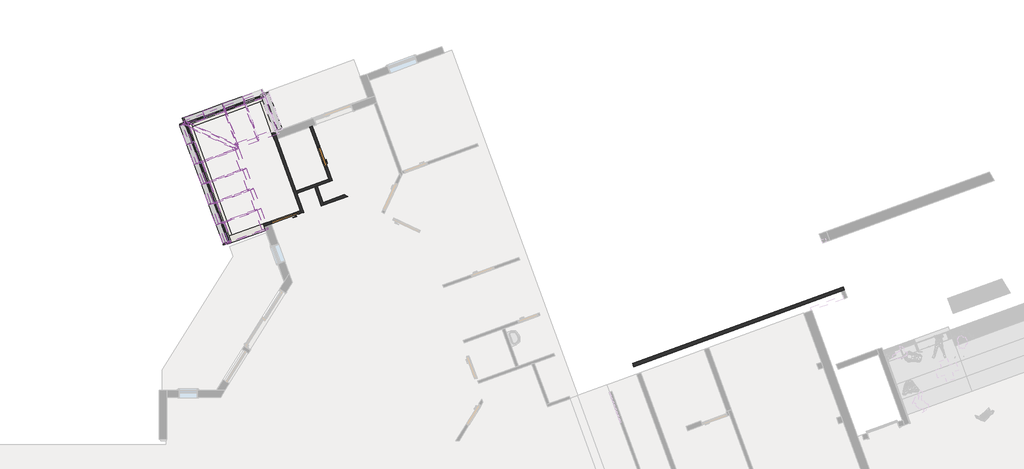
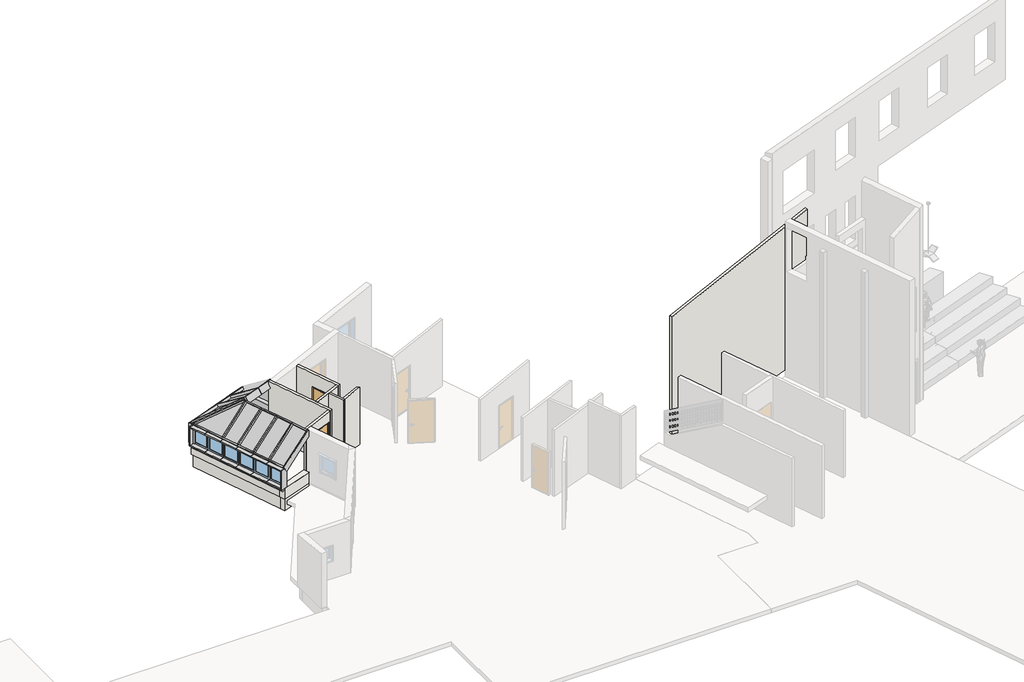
# One storey, part 8 of 13: 49 members, 15 walls, 10 windows, 9 plates, 2 doors.
"""IFC4 building model written with IfcOpenShell, lengths in millimetres."""

from ifc_helpers import new_model, si_unit, origin, place, context, project, spatial, faceted_brep, transform, mapped, element, save
from components import door_11x21_9736111e, door_8x21_60cf5580, rectangular_mullion_50_x_100mm_dbebb1b2, rectangular_mullion_50_x_100mm_ab75951c, rectangular_mullion_50_x_100mm_69f66120, rectangular_mullion_50_x_100mm_762bf241, rectangular_mullion_50_x_100mm_bf926df8, rectangular_mullion_50_x_100mm_1081bc8c, rectangular_mullion_50_x_100mm_a2001a8d, rectangular_mullion_50_x_100mm_a3d3c9c7, rectangular_mullion_50_x_100mm_c4b412ce, rectangular_mullion_50_x_100mm_a6b3a201, rectangular_mullion_50_x_100mm_112b2ebf, rectangular_mullion_50_x_100mm_b93bf2d0, rectangular_mullion_50_x_100mm_ce1730a3, rectangular_mullion_50_x_100mm_c8e4288f, rectangular_mullion_50_x_150mm_15c94c80, rectangular_mullion_50_x_150mm_be18659e, rectangular_mullion_50_x_150mm_57be7c81, system_panel_glazed_14bef62c, system_panel_glazed_947a4620, system_panel_glazed_629b5aa8, system_panel_glazed_9c400084, system_panel_glazed_17fe7d0a, system_panel_glazed_0cbcd161, curtain_wall_awning_curtain_wall_awning_e423f1c4, curtain_wall_awning_curtain_wall_awning_735e1d72, curtain_wall_awning_curtain_wall_awning_1c09ced8, curtain_wall_awning_curtain_wall_awning_3608cf77

model = new_model("IFC4")

# Units and contexts
model_context = context("Model", 3, world=origin())
ifc_project = project(units=[si_unit("LENGTHUNIT", "METRE", prefix="MILLI")], contexts=[model_context])

# Site, building, storey
site = spatial("IfcSite", under=ifc_project)
building = spatial("IfcBuilding", under=site)
storey = spatial("IfcBuildingStorey", under=building, Name="1.0 første etg hovedbygg", Elevation=2500.0)

# Doors
placement = place(None, origin())
door_11x21_shape = door_11x21_9736111e(model_context)
element("IfcDoor", 1, ObjectType="Innerdør Slett (Diplomat) : 11x21", at=placement, inside=storey, context=model_context, shape_type="MappedRepresentation", body=[
    mapped(door_11x21_shape, transform((12205.3927712, 17027.9115251, 2500.0), x_axis=(0.9396926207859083, 0.3420201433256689, 0.0), y_axis=(-0.3420201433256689, 0.9396926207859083, 0.0), z_axis=(0.0, 0.0, 1.0))),
])
door_8x21_shape = door_8x21_60cf5580(model_context)
element("IfcDoor", 2, ObjectType="Innerdør Slett (Diplomat) : 8x21", at=placement, inside=storey, context=model_context, shape_type="MappedRepresentation", body=[
    mapped(door_8x21_shape, transform((13635.9954862, 19361.307074, 2500.0), x_axis=(0.34202014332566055, -0.9396926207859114, 0.0), y_axis=(0.9396926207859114, 0.34202014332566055, 0.0), z_axis=(0.0, 0.0, 1.0))),
])

# Members
rectangular_mullion_50_x_100mm_shape = rectangular_mullion_50_x_100mm_dbebb1b2(model_context)
element("IfcMember", 3, ObjectType="Rectangular Mullion : 50 x 100mm", at=placement, inside=storey, context=model_context, shape_type="MappedRepresentation", body=[
    mapped(rectangular_mullion_50_x_100mm_shape, transform((8512.3218707, 20585.3449786, 3000.0), x_axis=(-0.9396926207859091, -0.3420201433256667, 0.0), y_axis=(-0.3420201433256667, 0.9396926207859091, 0.0), z_axis=(0.0, 0.0, -1.0))),
])
element("IfcMember", 4, ObjectType="Rectangular Mullion : 50 x 100mm", at=placement, inside=storey, context=model_context, shape_type="MappedRepresentation", body=[
    mapped(rectangular_mullion_50_x_100mm_shape, transform((10146.1473205, 16096.4464479, 3000.0), x_axis=(0.34202014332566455, -0.9396926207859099, 0.0), y_axis=(-0.9396926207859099, -0.34202014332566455, 0.0), z_axis=(0.0, 0.0, -1.0))),
])
element("IfcMember", 5, ObjectType="Rectangular Mullion : 50 x 100mm", at=placement, inside=storey, context=model_context, shape_type="MappedRepresentation", body=[
    mapped(rectangular_mullion_50_x_100mm_shape, transform((8512.3218707, 20585.3449786, 3938.0), x_axis=(-0.34202014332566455, 0.9396926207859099, 0.0), y_axis=(-0.9396926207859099, -0.34202014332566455, 0.0), z_axis=(0.0, 0.0, 1.0))),
])
rectangular_mullion_50_x_100mm_2_shape = rectangular_mullion_50_x_100mm_ab75951c(model_context)
element("IfcMember", 6, ObjectType="Rectangular Mullion : 50 x 100mm", at=placement, inside=storey, context=model_context, shape_type="MappedRepresentation", body=[
    mapped(rectangular_mullion_50_x_100mm_2_shape, transform((11492.1185252, 21669.9022651, 3000.0), x_axis=(-0.3420201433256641, 0.9396926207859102, 0.0), y_axis=(0.9396926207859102, 0.3420201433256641, 0.0), z_axis=(0.0, 0.0, -1.0))),
])
rectangular_mullion_50_x_100mm_3_shape = rectangular_mullion_50_x_100mm_69f66120(model_context)
element("IfcMember", 7, ObjectType="Rectangular Mullion : 50 x 100mm", at=placement, inside=storey, context=model_context, shape_type="MappedRepresentation", body=[
    mapped(rectangular_mullion_50_x_100mm_3_shape, transform((11241.4103944, 20040.8468659, 4949.8447807), x_axis=(-0.9396926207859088, -0.3420201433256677, 0.0), y_axis=(0.1961746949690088, -0.5389855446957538, -0.8191520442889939), z_axis=(0.28016649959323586, -0.7697511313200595, 0.573576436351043))),
])
element("IfcMember", 8, ObjectType="Rectangular Mullion : 50 x 100mm", at=placement, inside=storey, context=model_context, shape_type="MappedRepresentation", body=[
    mapped(rectangular_mullion_50_x_100mm_3_shape, transform((10496.4612308, 19769.7075443, 4949.8447807), x_axis=(-0.9396926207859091, -0.34202014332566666, 0.0), y_axis=(0.19617469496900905, -0.5389855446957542, -0.8191520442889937), z_axis=(0.2801664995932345, -0.7697511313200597, 0.5735764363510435))),
])
element("IfcMember", 9, ObjectType="Rectangular Mullion : 50 x 100mm", at=placement, inside=storey, context=model_context, shape_type="MappedRepresentation", body=[
    mapped(rectangular_mullion_50_x_100mm_3_shape, transform((11231.7403967, 17338.8304079, 4949.830802), x_axis=(0.3420201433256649, -0.9396926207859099, 0.0), y_axis=(0.5389855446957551, 0.19617469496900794, -0.8191520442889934), z_axis=(0.7697511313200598, 0.280166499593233, 0.5735764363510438))),
])
element("IfcMember", 10, ObjectType="Rectangular Mullion : 50 x 100mm", at=placement, inside=storey, context=model_context, shape_type="MappedRepresentation", body=[
    mapped(rectangular_mullion_50_x_100mm_3_shape, transform((10959.4361551, 18086.980163, 4949.830802), x_axis=(0.3420201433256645, -0.93969262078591, 0.0), y_axis=(0.5389855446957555, 0.19617469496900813, -0.819152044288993), z_axis=(0.7697511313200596, 0.28016649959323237, 0.5735764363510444))),
])
element("IfcMember", 11, ObjectType="Rectangular Mullion : 50 x 100mm", at=placement, inside=storey, context=model_context, shape_type="MappedRepresentation", body=[
    mapped(rectangular_mullion_50_x_100mm_3_shape, transform((10687.1319134, 18835.1299182, 4949.830802), x_axis=(0.34202014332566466, -0.9396926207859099, 0.0), y_axis=(0.5389855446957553, 0.19617469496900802, -0.8191520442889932), z_axis=(0.7697511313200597, 0.28016649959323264, 0.573576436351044))),
])
element("IfcMember", 12, ObjectType="Rectangular Mullion : 50 x 100mm", at=placement, inside=storey, context=model_context, shape_type="MappedRepresentation", body=[
    mapped(rectangular_mullion_50_x_100mm_3_shape, transform((10414.8276718, 19583.2796733, 4949.830802), x_axis=(0.3420201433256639, -0.9396926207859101, 0.0), y_axis=(0.5389855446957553, 0.19617469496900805, -0.8191520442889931), z_axis=(0.76975113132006, 0.28016649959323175, 0.5735764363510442))),
])
rectangular_mullion_50_x_100mm_4_shape = rectangular_mullion_50_x_100mm_762bf241(model_context)
element("IfcMember", 13, ObjectType="Rectangular Mullion : 50 x 100mm", at=placement, inside=storey, context=model_context, shape_type="MappedRepresentation", body=[
    mapped(rectangular_mullion_50_x_100mm_4_shape, transform((10747.1693616, 21398.7629435, 3938.0), x_axis=(-0.28016649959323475, 0.7697511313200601, -0.5735764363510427), y_axis=(0.19617469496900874, -0.5389855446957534, -0.8191520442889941), z_axis=(-0.9396926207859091, -0.34202014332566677, 0.0))),
])
rectangular_mullion_50_x_100mm_5_shape = rectangular_mullion_50_x_100mm_bf926df8(model_context)
element("IfcMember", 14, ObjectType="Rectangular Mullion : 50 x 100mm", at=placement, inside=storey, context=model_context, shape_type="MappedRepresentation", body=[
    mapped(rectangular_mullion_50_x_100mm_5_shape, transform((10137.5968169, 16119.9387634, 3938.0), x_axis=(-0.7697511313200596, -0.2801664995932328, -0.5735764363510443), y_axis=(0.5389855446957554, 0.1961746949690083, -0.8191520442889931), z_axis=(0.3420201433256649, -0.9396926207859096, 0.0))),
])
element("IfcMember", 15, ObjectType="Rectangular Mullion : 50 x 100mm", at=placement, inside=storey, context=model_context, shape_type="MappedRepresentation", body=[
    mapped(rectangular_mullion_50_x_100mm_5_shape, transform((11270.2279533, 17352.8387329, 4978.5096238), x_axis=(0.7697511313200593, 0.28016649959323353, 0.5735764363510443), y_axis=(0.5389855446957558, 0.19617469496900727, -0.8191520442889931), z_axis=(-0.3420201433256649, 0.9396926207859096, 0.0))),
])
element("IfcMember", 16, ObjectType="Rectangular Mullion : 50 x 100mm", at=placement, inside=storey, context=model_context, shape_type="MappedRepresentation", body=[
    mapped(rectangular_mullion_50_x_100mm_4_shape, transform((11976.8755675, 20264.9481273, 4978.5236025), x_axis=(0.2801664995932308, -0.7697511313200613, 0.5735764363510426), y_axis=(0.19617469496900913, -0.5389855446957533, -0.8191520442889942), z_axis=(0.9396926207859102, 0.34202014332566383, 0.0))),
])
rectangular_mullion_50_x_100mm_6_shape = rectangular_mullion_50_x_100mm_1081bc8c(model_context)
element("IfcMember", 17, ObjectType="Rectangular Mullion : 50 x 100mm", at=placement, inside=storey, context=model_context, shape_type="MappedRepresentation", body=[
    mapped(rectangular_mullion_50_x_100mm_6_shape, transform((9601.5388372, 17592.7459581, 3938.0), x_axis=(-0.7697511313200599, -0.28016649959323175, -0.5735764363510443), y_axis=(0.5389855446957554, 0.19617469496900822, -0.819152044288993), z_axis=(0.34202014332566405, -0.9396926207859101, 0.0))),
])
element("IfcMember", 18, ObjectType="Rectangular Mullion : 50 x 100mm", at=placement, inside=storey, context=model_context, shape_type="MappedRepresentation", body=[
    mapped(rectangular_mullion_50_x_100mm_6_shape, transform((9329.2345956, 18340.8957133, 3938.0), x_axis=(-0.7697511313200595, -0.28016649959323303, -0.5735764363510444), y_axis=(0.5389855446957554, 0.1961746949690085, -0.8191520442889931), z_axis=(0.3420201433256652, -0.9396926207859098, 0.0))),
])
element("IfcMember", 19, ObjectType="Rectangular Mullion : 50 x 100mm", at=placement, inside=storey, context=model_context, shape_type="MappedRepresentation", body=[
    mapped(rectangular_mullion_50_x_100mm_6_shape, transform((9873.8430788, 16844.596203, 3938.0), x_axis=(-0.7697511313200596, -0.28016649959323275, -0.5735764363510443), y_axis=(0.5389855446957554, 0.19617469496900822, -0.8191520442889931), z_axis=(0.3420201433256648, -0.9396926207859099, 0.0))),
])
rectangular_mullion_50_x_100mm_7_shape = rectangular_mullion_50_x_100mm_a2001a8d(model_context)
element("IfcMember", 20, ObjectType="Rectangular Mullion : 50 x 100mm", at=placement, inside=storey, context=model_context, shape_type="MappedRepresentation", body=[
    mapped(rectangular_mullion_50_x_100mm_7_shape, transform((9056.9303539, 19089.0454684, 3938.0), x_axis=(-0.7697511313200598, -0.28016649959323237, -0.5735764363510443), y_axis=(0.5389855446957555, 0.19617469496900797, -0.8191520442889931), z_axis=(0.3420201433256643, -0.9396926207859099, 0.0))),
])
rectangular_mullion_50_x_100mm_8_shape = rectangular_mullion_50_x_100mm_a3d3c9c7(model_context)
element("IfcMember", 21, ObjectType="Rectangular Mullion : 50 x 100mm", at=placement, inside=storey, context=model_context, shape_type="MappedRepresentation", body=[
    mapped(rectangular_mullion_50_x_100mm_8_shape, transform((8512.3218707, 20585.3449786, 3938.0), x_axis=(-0.28016649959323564, 0.7697511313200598, -0.5735764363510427), y_axis=(0.19617469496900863, -0.5389855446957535, -0.8191520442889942), z_axis=(-0.9396926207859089, -0.3420201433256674, 0.0))),
])
rectangular_mullion_50_x_100mm_9_shape = rectangular_mullion_50_x_100mm_c4b412ce(model_context)
element("IfcMember", 22, ObjectType="Rectangular Mullion : 50 x 100mm", at=placement, inside=storey, context=model_context, shape_type="MappedRepresentation", body=[
    mapped(rectangular_mullion_50_x_100mm_9_shape, transform((10002.2201979, 21127.6236218, 3938.0), x_axis=(-0.280166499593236, 0.7697511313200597, -0.5735764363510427), y_axis=(0.1961746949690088, -0.5389855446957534, -0.8191520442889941), z_axis=(-0.9396926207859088, -0.34202014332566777, 0.0))),
])
rectangular_mullion_50_x_100mm_10_shape = rectangular_mullion_50_x_100mm_a6b3a201(model_context)
element("IfcMember", 23, ObjectType="Rectangular Mullion : 50 x 100mm", at=placement, inside=storey, context=model_context, shape_type="MappedRepresentation", body=[
    mapped(rectangular_mullion_50_x_100mm_10_shape, transform((8512.3218707, 20585.3449786, 3938.0), x_axis=(0.22319836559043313, 0.9044741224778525, 0.36346808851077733), y_axis=(0.5389855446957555, 0.196174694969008, -0.8191520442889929), z_axis=(-0.812205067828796, 0.3787374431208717, -0.4437126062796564))),
])
rectangular_mullion_50_x_100mm_11_shape = rectangular_mullion_50_x_100mm_112b2ebf(model_context)
element("IfcMember", 24, ObjectType="Rectangular Mullion : 50 x 100mm", at=placement, inside=storey, context=model_context, shape_type="MappedRepresentation", body=[
    mapped(rectangular_mullion_50_x_100mm_11_shape, transform((11551.0826985, 16581.1966622, 4978.5096238), x_axis=(0.3420201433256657, -0.9396926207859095, 0.0), y_axis=(0.5389855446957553, 0.19617469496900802, -0.819152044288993), z_axis=(0.7697511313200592, 0.280166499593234, 0.5735764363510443))),
])
rectangular_mullion_50_x_100mm_12_shape = rectangular_mullion_50_x_100mm_b93bf2d0(model_context)
element("IfcMember", 25, ObjectType="Rectangular Mullion : 50 x 100mm", at=placement, inside=storey, context=model_context, shape_type="MappedRepresentation", body=[
    mapped(rectangular_mullion_50_x_100mm_12_shape, transform((10416.9561029, 19697.1838744, 4978.5096238), x_axis=(0.7697511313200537, 0.28016649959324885, 0.5735764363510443), y_axis=(0.5389855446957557, 0.19617469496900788, -0.8191520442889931), z_axis=(-0.3420201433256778, 0.9396926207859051, 0.0))),
])
element("IfcMember", 26, ObjectType="Rectangular Mullion : 50 x 100mm", at=placement, inside=storey, context=model_context, shape_type="MappedRepresentation", body=[
    mapped(rectangular_mullion_50_x_100mm_6_shape, transform((10997.9237116, 18100.988488, 4978.5096238), x_axis=(0.7697511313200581, 0.28016649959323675, 0.5735764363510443), y_axis=(0.538985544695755, 0.19617469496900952, -0.8191520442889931), z_axis=(-0.3420201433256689, 0.9396926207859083, 0.0))),
])
element("IfcMember", 27, ObjectType="Rectangular Mullion : 50 x 100mm", at=placement, inside=storey, context=model_context, shape_type="MappedRepresentation", body=[
    mapped(rectangular_mullion_50_x_100mm_6_shape, transform((10725.61947, 18849.1382431, 4978.5096238), x_axis=(0.7697511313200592, 0.2801664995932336, 0.5735764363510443), y_axis=(0.5389855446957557, 0.19617469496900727, -0.8191520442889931), z_axis=(-0.342020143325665, 0.9396926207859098, 0.0))),
])
element("IfcMember", 28, ObjectType="Rectangular Mullion : 50 x 100mm", at=placement, inside=storey, context=model_context, shape_type="MappedRepresentation", body=[
    mapped(rectangular_mullion_50_x_100mm_6_shape, transform((10453.3152284, 19597.2879983, 4978.5096238), x_axis=(0.7697511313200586, 0.28016649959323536, 0.5735764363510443), y_axis=(0.5389855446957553, 0.19617469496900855, -0.8191520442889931), z_axis=(-0.34202014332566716, 0.939692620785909, 0.0))),
])
rectangular_mullion_50_x_100mm_13_shape = rectangular_mullion_50_x_100mm_ce1730a3(model_context)
element("IfcMember", 29, ObjectType="Rectangular Mullion : 50 x 100mm", at=placement, inside=storey, context=model_context, shape_type="MappedRepresentation", body=[
    mapped(rectangular_mullion_50_x_100mm_13_shape, transform((10416.9748626, 19697.1907023, 4978.5236025), x_axis=(-0.5493982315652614, -0.7523646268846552, 0.363468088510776), y_axis=(0.19617469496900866, -0.5389855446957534, -0.8191520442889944), z_axis=(0.8122050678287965, -0.37873744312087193, 0.44371260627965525))),
])
element("IfcMember", 30, ObjectType="Rectangular Mullion : 50 x 100mm", at=placement, inside=storey, context=model_context, shape_type="MappedRepresentation", body=[
    mapped(rectangular_mullion_50_x_100mm_9_shape, transform((11255.4187194, 20002.3593093, 4978.5236025), x_axis=(0.28016649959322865, -0.7697511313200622, 0.5735764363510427), y_axis=(0.19617469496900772, -0.5389855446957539, -0.8191520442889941), z_axis=(0.9396926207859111, 0.34202014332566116, 0.0))),
])
rectangular_mullion_50_x_100mm_14_shape = rectangular_mullion_50_x_100mm_c8e4288f(model_context)
element("IfcMember", 31, ObjectType="Rectangular Mullion : 50 x 100mm", at=placement, inside=storey, context=model_context, shape_type="MappedRepresentation", body=[
    mapped(rectangular_mullion_50_x_100mm_14_shape, transform((10510.4695558, 19731.2199877, 4978.5236025), x_axis=(0.28016649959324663, -0.7697511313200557, 0.5735764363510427), y_axis=(0.19617469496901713, -0.5389855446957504, -0.8191520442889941), z_axis=(0.9396926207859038, 0.34202014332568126, 0.0))),
])
rectangular_mullion_50_x_150mm_shape = rectangular_mullion_50_x_150mm_15c94c80(model_context)
element("IfcMember", 32, ObjectType="Rectangular Mullion : 50 x 150mm", at=placement, inside=storey, context=model_context, shape_type="MappedRepresentation", body=[
    mapped(rectangular_mullion_50_x_150mm_shape, transform((11983.2668759, 20320.483262, 3000.0), x_axis=(0.0, 0.0, -1.0), y_axis=(0.9396926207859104, 0.3420201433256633, 0.0), z_axis=(0.3420201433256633, -0.9396926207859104, 0.0))),
])
rectangular_mullion_50_x_150mm_2_shape = rectangular_mullion_50_x_150mm_be18659e(model_context)
element("IfcMember", 33, ObjectType="Rectangular Mullion : 50 x 150mm", at=placement, inside=storey, context=model_context, shape_type="MappedRepresentation", body=[
    mapped(rectangular_mullion_50_x_150mm_2_shape, transform((8559.3065017, 20602.4459858, 3938.0), x_axis=(0.0, 0.0, 1.0), y_axis=(-0.34202014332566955, 0.9396926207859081, 0.0), z_axis=(-0.9396926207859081, -0.34202014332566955, 0.0))),
])
element("IfcMember", 34, ObjectType="Rectangular Mullion : 50 x 150mm", at=placement, inside=storey, context=model_context, shape_type="MappedRepresentation", body=[
    mapped(rectangular_mullion_50_x_150mm_2_shape, transform((10747.1693616, 21398.7629435, 3938.0), x_axis=(0.0, 0.0, 1.0), y_axis=(-0.34202014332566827, 0.9396926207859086, 0.0), z_axis=(-0.9396926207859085, -0.3420201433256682, 0.0))),
])
element("IfcMember", 35, ObjectType="Rectangular Mullion : 50 x 150mm", at=placement, inside=storey, context=model_context, shape_type="MappedRepresentation", body=[
    mapped(rectangular_mullion_50_x_150mm_2_shape, transform((9257.2710343, 20856.4843002, 3000.0), x_axis=(0.0, 0.0, -1.0), y_axis=(-0.34202014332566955, 0.9396926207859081, 0.0), z_axis=(0.9396926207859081, 0.34202014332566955, 0.0))),
])
rectangular_mullion_50_x_150mm_3_shape = rectangular_mullion_50_x_150mm_57be7c81(model_context)
element("IfcMember", 36, ObjectType="Rectangular Mullion : 50 x 150mm", at=placement, inside=storey, context=model_context, shape_type="MappedRepresentation", body=[
    mapped(rectangular_mullion_50_x_150mm_3_shape, transform((10129.0463133, 16143.4310789, 3938.0), x_axis=(0.0, 0.0, 1.0), y_axis=(-0.9396926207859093, -0.34202014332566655, 0.0), z_axis=(0.34202014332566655, -0.9396926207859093, 0.0))),
])
element("IfcMember", 37, ObjectType="Rectangular Mullion : 50 x 150mm", at=placement, inside=storey, context=model_context, shape_type="MappedRepresentation", body=[
    mapped(rectangular_mullion_50_x_150mm_3_shape, transform((8529.4228778, 20538.3603476, 3000.0), x_axis=(0.0, 0.0, -1.0), y_axis=(-0.9396926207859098, -0.342020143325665, 0.0), z_axis=(-0.342020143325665, 0.9396926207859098, 0.0))),
])
element("IfcMember", 38, ObjectType="Rectangular Mullion : 50 x 150mm", at=placement, inside=storey, context=model_context, shape_type="MappedRepresentation", body=[
    mapped(rectangular_mullion_50_x_150mm_3_shape, transform((9873.8430788, 16844.596203, 3000.0), x_axis=(0.0, 0.0, -1.0), y_axis=(-0.9396926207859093, -0.34202014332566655, 0.0), z_axis=(-0.34202014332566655, 0.9396926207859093, 0.0))),
])
element("IfcMember", 39, ObjectType="Rectangular Mullion : 50 x 150mm", at=placement, inside=storey, context=model_context, shape_type="MappedRepresentation", body=[
    mapped(rectangular_mullion_50_x_150mm_3_shape, transform((8784.6261123, 19837.1952235, 3938.0), x_axis=(0.0, 0.0, 1.0), y_axis=(-0.9396926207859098, -0.342020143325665, 0.0), z_axis=(0.342020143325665, -0.9396926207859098, 0.0))),
])
element("IfcMember", 40, ObjectType="Rectangular Mullion : 50 x 150mm", at=placement, inside=storey, context=model_context, shape_type="MappedRepresentation", body=[
    mapped(rectangular_mullion_50_x_100mm_6_shape, transform((9873.8430788, 16844.596203, 3938.0), x_axis=(0.0, 0.0, 1.0), y_axis=(-0.9396926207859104, -0.3420201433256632, 0.0), z_axis=(0.3420201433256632, -0.9396926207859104, 0.0))),
])
element("IfcMember", 41, ObjectType="Rectangular Mullion : 50 x 150mm", at=placement, inside=storey, context=model_context, shape_type="MappedRepresentation", body=[
    mapped(rectangular_mullion_50_x_100mm_6_shape, transform((9601.5388372, 17592.7459581, 3938.0), x_axis=(0.0, 0.0, 1.0), y_axis=(-0.9396926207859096, -0.34202014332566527, 0.0), z_axis=(0.34202014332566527, -0.9396926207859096, 0.0))),
])
element("IfcMember", 42, ObjectType="Rectangular Mullion : 50 x 150mm", at=placement, inside=storey, context=model_context, shape_type="MappedRepresentation", body=[
    mapped(rectangular_mullion_50_x_100mm_6_shape, transform((9329.2345956, 18340.8957133, 3938.0), x_axis=(0.0, 0.0, 1.0), y_axis=(-0.93969262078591, -0.3420201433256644, 0.0), z_axis=(0.3420201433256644, -0.93969262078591, 0.0))),
])
element("IfcMember", 43, ObjectType="Rectangular Mullion : 50 x 150mm", at=placement, inside=storey, context=model_context, shape_type="MappedRepresentation", body=[
    mapped(rectangular_mullion_50_x_100mm_6_shape, transform((9056.9303539, 19089.0454684, 3938.0), x_axis=(0.0, 0.0, 1.0), y_axis=(-0.9396926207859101, -0.3420201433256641, 0.0), z_axis=(0.3420201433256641, -0.9396926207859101, 0.0))),
])
element("IfcMember", 44, ObjectType="Rectangular Mullion : 50 x 150mm", at=placement, inside=storey, context=model_context, shape_type="MappedRepresentation", body=[
    mapped(rectangular_mullion_50_x_100mm_6_shape, transform((9601.5388372, 17592.7459581, 3000.0), x_axis=(0.0, 0.0, -1.0), y_axis=(-0.9396926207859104, -0.3420201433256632, 0.0), z_axis=(-0.3420201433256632, 0.9396926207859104, 0.0))),
])
element("IfcMember", 45, ObjectType="Rectangular Mullion : 50 x 150mm", at=placement, inside=storey, context=model_context, shape_type="MappedRepresentation", body=[
    mapped(rectangular_mullion_50_x_100mm_6_shape, transform((9329.2345956, 18340.8957133, 3000.0), x_axis=(0.0, 0.0, -1.0), y_axis=(-0.9396926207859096, -0.34202014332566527, 0.0), z_axis=(-0.34202014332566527, 0.9396926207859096, 0.0))),
])
element("IfcMember", 46, ObjectType="Rectangular Mullion : 50 x 150mm", at=placement, inside=storey, context=model_context, shape_type="MappedRepresentation", body=[
    mapped(rectangular_mullion_50_x_100mm_6_shape, transform((9056.9303539, 19089.0454684, 3000.0), x_axis=(0.0, 0.0, -1.0), y_axis=(-0.93969262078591, -0.3420201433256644, 0.0), z_axis=(-0.3420201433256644, 0.93969262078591, 0.0))),
])
element("IfcMember", 47, ObjectType="Rectangular Mullion : 50 x 150mm", at=placement, inside=storey, context=model_context, shape_type="MappedRepresentation", body=[
    mapped(rectangular_mullion_50_x_100mm_6_shape, transform((8784.6261123, 19837.1952235, 3000.0), x_axis=(0.0, 0.0, -1.0), y_axis=(-0.9396926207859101, -0.3420201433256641, 0.0), z_axis=(-0.3420201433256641, 0.9396926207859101, 0.0))),
])
element("IfcMember", 48, ObjectType="Rectangular Mullion : 50 x 150mm", at=placement, inside=storey, context=model_context, shape_type="MappedRepresentation", body=[
    mapped(rectangular_mullion_50_x_100mm_9_shape, transform((10747.1693616, 21398.7629435, 3000.0), x_axis=(0.0, 0.0, -1.0), y_axis=(-0.34202014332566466, 0.9396926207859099, 0.0), z_axis=(0.9396926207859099, 0.34202014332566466, 0.0))),
])
element("IfcMember", 49, ObjectType="Rectangular Mullion : 50 x 150mm", at=placement, inside=storey, context=model_context, shape_type="MappedRepresentation", body=[
    mapped(rectangular_mullion_50_x_100mm_9_shape, transform((10002.2201979, 21127.6236218, 3000.0), x_axis=(0.0, 0.0, -1.0), y_axis=(-0.34202014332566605, 0.9396926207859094, 0.0), z_axis=(0.9396926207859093, 0.342020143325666, 0.0))),
])
element("IfcMember", 50, ObjectType="Rectangular Mullion : 50 x 150mm", at=placement, inside=storey, context=model_context, shape_type="MappedRepresentation", body=[
    mapped(rectangular_mullion_50_x_100mm_9_shape, transform((10002.2201979, 21127.6236218, 3938.0), x_axis=(0.0, 0.0, 1.0), y_axis=(-0.342020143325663, 0.9396926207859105, 0.0), z_axis=(-0.9396926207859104, -0.34202014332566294, 0.0))),
])
element("IfcMember", 51, ObjectType="Rectangular Mullion : 50 x 150mm", at=placement, inside=storey, context=model_context, shape_type="MappedRepresentation", body=[
    mapped(rectangular_mullion_50_x_100mm_9_shape, transform((9257.2710343, 20856.4843002, 3938.0), x_axis=(0.0, 0.0, 1.0), y_axis=(-0.34202014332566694, 0.9396926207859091, 0.0), z_axis=(-0.939692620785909, -0.3420201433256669, 0.0))),
])

# Plates
system_panel_glazed_shape = system_panel_glazed_14bef62c(model_context)
element("IfcPlate", 52, ObjectType="System Panel : Glazed", at=placement, inside=storey, context=model_context, shape_type="MappedRepresentation", body=[
    mapped(system_panel_glazed_shape, transform((10388.7031047, 21224.7057261, 3966.6788218), x_axis=(-0.9396926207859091, -0.3420201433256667, 0.0), y_axis=(0.1961746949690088, -0.5389855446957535, -0.8191520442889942), z_axis=(0.2801664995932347, -0.7697511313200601, 0.5735764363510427))),
])
system_panel_glazed_2_shape = system_panel_glazed_947a4620(model_context)
element("IfcPlate", 53, ObjectType="System Panel : Glazed", at=placement, inside=storey, context=model_context, shape_type="MappedRepresentation", body=[
    mapped(system_panel_glazed_2_shape, transform((8836.8956065, 19813.3379861, 3966.6788218), x_axis=(0.34202014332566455, -0.9396926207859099, 0.0), y_axis=(0.5389855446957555, 0.1961746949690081, -0.8191520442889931), z_axis=(0.7697511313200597, 0.28016649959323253, 0.5735764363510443))),
])
system_panel_glazed_3_shape = system_panel_glazed_629b5aa8(model_context)
element("IfcPlate", 54, ObjectType="System Panel : Glazed", at=placement, inside=storey, context=model_context, shape_type="MappedRepresentation", body=[
    mapped(system_panel_glazed_3_shape, transform((9309.1449216, 20831.7786813, 3966.6788218), x_axis=(-0.9396926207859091, -0.3420201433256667, 0.0), y_axis=(0.1961746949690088, -0.5389855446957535, -0.8191520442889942), z_axis=(0.2801664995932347, -0.7697511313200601, 0.5735764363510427))),
])
system_panel_glazed_4_shape = system_panel_glazed_9c400084(model_context)
element("IfcPlate", 55, ObjectType="System Panel : Glazed", at=placement, inside=storey, context=model_context, shape_type="MappedRepresentation", body=[
    mapped(system_panel_glazed_4_shape, transform((9231.5700313, 18728.9789158, 3966.6788218), x_axis=(0.34202014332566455, -0.9396926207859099, 0.0), y_axis=(0.5389855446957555, 0.1961746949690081, -0.8191520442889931), z_axis=(0.7697511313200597, 0.28016649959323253, 0.5735764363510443))),
])
element("IfcPlate", 56, ObjectType="System Panel : Glazed", at=placement, inside=storey, context=model_context, shape_type="MappedRepresentation", body=[
    mapped(system_panel_glazed_4_shape, transform((9503.874273, 17980.8291607, 3966.6788218), x_axis=(0.34202014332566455, -0.9396926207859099, 0.0), y_axis=(0.5389855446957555, 0.1961746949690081, -0.8191520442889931), z_axis=(0.7697511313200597, 0.28016649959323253, 0.5735764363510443))),
])
element("IfcPlate", 57, ObjectType="System Panel : Glazed", at=placement, inside=storey, context=model_context, shape_type="MappedRepresentation", body=[
    mapped(system_panel_glazed_4_shape, transform((9776.1785146, 17232.6794056, 3966.6788218), x_axis=(0.34202014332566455, -0.9396926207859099, 0.0), y_axis=(0.5389855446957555, 0.1961746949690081, -0.8191520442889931), z_axis=(0.7697511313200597, 0.28016649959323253, 0.5735764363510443))),
])
element("IfcPlate", 58, ObjectType="System Panel : Glazed", at=placement, inside=storey, context=model_context, shape_type="MappedRepresentation", body=[
    mapped(system_panel_glazed_4_shape, transform((10048.4827562, 16484.5296504, 3966.6788218), x_axis=(0.34202014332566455, -0.9396926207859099, 0.0), y_axis=(0.5389855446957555, 0.1961746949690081, -0.8191520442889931), z_axis=(0.7697511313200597, 0.28016649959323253, 0.5735764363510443))),
])
system_panel_glazed_5_shape = system_panel_glazed_17fe7d0a(model_context)
element("IfcPlate", 59, ObjectType="System Panel : Glazed", at=placement, inside=storey, context=model_context, shape_type="MappedRepresentation", body=[
    mapped(system_panel_glazed_5_shape, transform((11746.2432041, 20971.700448, 3050.0), x_axis=(-0.3420201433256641, 0.9396926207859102, 0.0), y_axis=(-0.9396926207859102, -0.3420201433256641, 0.0), z_axis=(0.0, 0.0, 1.0))),
])
system_panel_glazed_6_shape = system_panel_glazed_0cbcd161(model_context)
element("IfcPlate", 60, ObjectType="System Panel : Glazed", at=placement, inside=storey, context=model_context, shape_type="MappedRepresentation", body=[
    mapped(system_panel_glazed_6_shape, transform((11749.4250886, 20962.9582922, 3925.0), x_axis=(-0.3420201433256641, 0.9396926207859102, 0.0), y_axis=(-0.9396926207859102, -0.3420201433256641, 0.0), z_axis=(0.0, 0.0, 1.0))),
])

# Walls
element("IfcWall", 61, ObjectType="Yttervegg Tre 198 Isolert Liggende Kledning", at=placement, inside=storey, context=model_context, shape_type="Brep", body=[
    faceted_brep([(11584.8288066, 16874.4221731, 2500.0), (10289.9307352, 16403.1178187, 2500.0), (10041.8518833, 16312.8245008, 2500.0), (10041.8518833, 16312.8245008, 2995.0), (10041.8518833, 16312.8245008, 3000.0), (10289.9307352, 16403.1178187, 3000.0), (11584.8288066, 16874.4221731, 3000.0), (11675.1221244, 16626.3433212, 3000.0), (11551.0826985, 16581.1966622, 3000.0), (10132.1452012, 16064.7456489, 3000.0), (10132.1452012, 16064.7456489, 2995.0), (10132.1452012, 16064.7456489, 2500.0), (11551.0826985, 16581.1966622, 2500.0), (11675.1221244, 16626.3433212, 2500.0), (11625.1914809, 16763.5266369, 3000.0), (11590.9894665, 16857.495899, 3000.0), (11656.6530367, 16677.0867227, 2500.0), (11625.1914809, 16763.5266369, 2500.0), (11590.9894665, 16857.495899, 2500.0), (10113.6761134, 16115.4890505, 2500.0)], [[[0, 1, 2, 3, 4, 5, 6]], [[7, 8, 9, 10, 11, 12, 13]], [[6, 5, 4, 9, 8, 7, 14, 15]], [[0, 6, 15, 14, 7, 13, 16, 17, 18]], [[2, 1, 0, 18, 17, 16, 19]], [[16, 13, 12, 11, 19]], [[9, 4, 3, 2, 19, 11, 10]]]),
])
element("IfcWall", 62, ObjectType="Yttervegg Tre 198 Isolert Liggende Kledning", at=placement, inside=storey, context=model_context, shape_type="Brep", body=[
    faceted_brep([(10289.9307352, 16403.1178187, 2500.0), (8819.932934, 20441.903584, 2500.0), (8729.6396162, 20689.9824359, 2500.0), (8729.6396162, 20689.9824359, 3000.0), (8819.932934, 20441.903584, 3000.0), (10289.9307352, 16403.1178187, 3000.0), (10041.8518833, 16312.8245008, 3000.0), (8481.5607643, 20599.6891181, 3000.0), (8481.5607643, 20599.6891181, 2995.0), (8481.5607643, 20599.6891181, 2500.0), (10041.8518833, 16312.8245008, 2500.0), (10041.8518833, 16312.8245008, 2995.0), (10092.5952849, 16331.2935886, 2500.0), (8532.3041658, 20618.1582058, 2500.0)], [[[0, 1, 2, 3, 4, 5]], [[6, 7, 8, 9, 10, 11]], [[5, 4, 3, 7, 6]], [[2, 1, 0, 12, 13]], [[0, 5, 6, 11, 10, 12]], [[10, 9, 13, 12]], [[3, 2, 13, 9, 8, 7]]]),
])
element("IfcWall", 63, ObjectType="Yttervegg Tre 198 Isolert Liggende Kledning", at=placement, inside=storey, context=model_context, shape_type="Brep", body=[
    faceted_brep([(8819.932934, 20441.903584, 2500.0), (11349.6168233, 21362.6332218, 2500.0), (11597.6956751, 21452.9265397, 2500.0), (11597.6956751, 21452.9265397, 3000.0), (11349.6168233, 21362.6332218, 3000.0), (8819.932934, 20441.903584, 3000.0), (8729.6396162, 20689.9824359, 2500.0), (8729.6396162, 20689.9824359, 3000.0), (11507.4023573, 21701.0053915, 3000.0), (11507.4023573, 21701.0053915, 2500.0), (8748.1087039, 20639.2390344, 2500.0), (11525.871445, 21650.26199, 2500.0)], [[[0, 1, 2, 3, 4, 5]], [[6, 7, 8, 9]], [[5, 4, 3, 8, 7]], [[2, 1, 0, 10, 11]], [[0, 5, 7, 6, 10]], [[10, 6, 9, 11]], [[3, 2, 11, 9, 8]]]),
])
element("IfcWall", 64, ObjectType="Yttervegg Tre 198 Isolert Liggende Kledning", at=placement, inside=storey, context=model_context, shape_type="Brep", body=[
    faceted_brep([(11349.6168233, 21362.6332218, 2500.0), (11820.9280056, 20067.7163907, 2500.0), (11820.9280056, 20067.7163907, 3000.0), (11349.6168233, 21362.6332218, 3000.0), (11597.6956751, 21452.9265397, 2500.0), (11597.6956751, 21452.9265397, 3000.0), (12023.8601986, 20282.0491345, 3000.0), (12069.0068575, 20158.0097086, 3000.0), (12069.0068575, 20158.0097086, 2500.0), (12023.8601986, 20282.0491345, 2500.0), (11834.0830464, 20072.504434, 2500.0), (11928.0523085, 20106.7064483, 2500.0), (12018.263456, 20139.5406208, 2500.0), (11928.0523085, 20106.7064483, 3000.0), (11834.0830464, 20072.504434, 3000.0), (11546.9522736, 21434.4574519, 2500.0)], [[[0, 1, 2, 3]], [[4, 5, 6, 7, 8, 9]], [[2, 1, 10, 11, 12, 8, 7, 13, 14]], [[3, 2, 14, 13, 7, 6, 5]], [[1, 0, 15, 12, 11, 10]], [[0, 3, 5, 4, 15]], [[15, 4, 9, 8, 12]]]),
])
element("IfcWall", 65, ObjectType="Innervegg Tre 198", at=placement, inside=storey, context=model_context, shape_type="Brep", body=[
    faceted_brep([(33028.4381259, 14469.881223, 2500.0), (25200.7985948, 11620.8534291, 2500.0), (25200.7985948, 11620.8534291, 8803.0852998), (33028.4381259, 14469.881223, 9551.5952301), (33070.8486237, 14353.359338, 2500.0), (33070.8486237, 14353.359338, 2516.8949299), (33070.8486237, 14353.359338, 7330.0), (33070.8486237, 14353.359338, 9551.5952301), (25243.2090925, 11504.3315441, 8803.0852998), (25243.2090925, 11504.3315441, 2500.0)], [[[0, 1, 2, 3]], [[4, 5, 6, 7, 8, 9]], [[1, 0, 4, 9]], [[2, 1, 9, 8]], [[3, 2, 8, 7]], [[0, 3, 7, 6, 5, 4]]]),
])
element("IfcWall", 66, ObjectType="Generic - 100mm - Filled", at=placement, inside=storey, context=model_context, shape_type="Brep", body=[
    faceted_brep([(13194.7993744, 20427.2932087, 5250.2202831), (13194.7993744, 20427.2932087, 2500.0), (13468.7496069, 19674.621131, 2500.0), (13468.7496069, 19674.621131, 4615.0), (13745.7859229, 18913.4701082, 4615.0), (13745.7859229, 18913.4701082, 2500.0), (13897.9848867, 18495.3068919, 2500.0), (13932.1869011, 18401.3376298, 2500.0), (13932.1869011, 18401.3376298, 5250.2202831), (13897.9848867, 18495.3068919, 5250.2202831), (13288.7686365, 20461.495223, 2500.0), (13288.7686365, 20461.495223, 5258.9691495), (14026.1561631, 18435.5396442, 5258.9691495), (14026.1561631, 18435.5396442, 2500.0), (13839.755185, 18947.6721225, 2500.0), (13839.755185, 18947.6721225, 4615.0), (13562.7188689, 19708.8231453, 4615.0), (13562.7188689, 19708.8231453, 2500.0)], [[[0, 1, 2, 3, 4, 5, 6, 7, 8, 9]], [[10, 11, 12, 13, 14, 15, 16, 17]], [[1, 10, 17, 2]], [[13, 7, 6, 5, 14]], [[1, 0, 11, 10]], [[8, 7, 13, 12]], [[0, 9, 8, 12, 11]], [[16, 3, 2, 17]], [[3, 16, 15, 4]], [[4, 15, 14, 5]]]),
])
element("IfcWall", 67, ObjectType="Generic - 100mm - Filled", at=placement, inside=storey, context=model_context, shape_type="Brep", body=[
    faceted_brep([(13897.9848867, 18495.3068919, 2500.0), (12676.3844797, 18050.6807056, 2500.0), (12676.3844797, 18050.6807056, 5136.4850205), (13897.9848867, 18495.3068919, 5250.2202831), (13932.1869011, 18401.3376298, 2500.0), (13932.1869011, 18401.3376298, 5250.2202831), (13462.3405907, 18230.3275582, 5206.4759513), (13368.3713286, 18196.1255438, 5197.727085), (12710.586494, 17956.7114435, 5136.4850205), (12710.586494, 17956.7114435, 2500.0), (13368.3713286, 18196.1255438, 2500.0), (13462.3405907, 18230.3275582, 2500.0)], [[[0, 1, 2, 3]], [[4, 5, 6, 7, 8, 9, 10, 11]], [[1, 0, 4, 11, 10, 9]], [[0, 3, 5, 4]], [[2, 1, 9, 8]], [[3, 2, 8, 7, 6, 5]]]),
])
element("IfcWall", 68, ObjectType="Generic - 100mm - Filled", at=placement, inside=storey, context=model_context, shape_type="Brep", body=[
    faceted_brep([(11834.0830464, 20072.504434, 2500.0), (12838.9303251, 17311.7092257, 2500.0), (12873.1323395, 17217.7399636, 2500.0), (12873.1323395, 17217.7399636, 5127.7361542), (12838.9303251, 17311.7092257, 5127.7361542), (11788.9363875, 20196.5438599, 5127.7361542), (11788.9363875, 20196.5438599, 3000.0), (11834.0830464, 20072.504434, 3000.0), (11928.0523085, 20106.7064483, 2500.0), (11928.0523085, 20106.7064483, 3000.0), (11882.9056495, 20230.7458743, 3000.0), (11882.9056495, 20230.7458743, 5136.4850205), (11973.1989674, 19982.6670224, 5136.4850205), (12676.3844797, 18050.6807056, 5136.4850205), (12710.586494, 17956.7114435, 5136.4850205), (12967.1016015, 17251.9419779, 5136.4850205), (12967.1016015, 17251.9419779, 2500.0), (12710.586494, 17956.7114435, 2500.0), (12676.3844797, 18050.6807056, 2500.0), (11973.1989674, 19982.6670224, 2500.0)], [[[0, 1, 2, 3, 4, 5, 6, 7]], [[8, 9, 10, 11, 12, 13, 14, 15, 16, 17, 18, 19]], [[2, 1, 0, 8, 19, 18, 17, 16]], [[3, 2, 16, 15]], [[5, 4, 3, 15, 14, 13, 12, 11]], [[0, 7, 9, 8]], [[6, 10, 9, 7]], [[5, 11, 10, 6]]]),
])
element("IfcWall", 69, ObjectType="Generic - 100mm - Filled", at=placement, inside=storey, context=model_context, shape_type="Brep", body=[
    faceted_brep([(12873.1323395, 17217.7399636, 2500.0), (12873.1323395, 17217.7399636, 5127.7361542), (11749.2309068, 16808.6732959, 5023.0970072), (11501.1520549, 16718.379978, 5000.0), (11501.1520549, 16718.379978, 3000.0), (11625.1914809, 16763.5266369, 3000.0), (11625.1914809, 16763.5266369, 2500.0), (11749.2309068, 16808.6732959, 2500.0), (11751.1248211, 16809.3626243, 2500.0), (11751.1248211, 16809.3626243, 4615.0), (12794.1836302, 17189.0049834, 4615.0), (12794.1836302, 17189.0049834, 2500.0), (12838.9303251, 17311.7092257, 5127.7361542), (12838.9303251, 17311.7092257, 2500.0), (12759.9816159, 17282.9742455, 2500.0), (12759.9816159, 17282.9742455, 4615.0), (11716.9228068, 16903.3318864, 4615.0), (11716.9228068, 16903.3318864, 2500.0), (11590.9894665, 16857.495899, 2500.0), (11590.9894665, 16857.495899, 3000.0), (11466.9500406, 16812.3492401, 3000.0), (11466.9500406, 16812.3492401, 5000.0)], [[[0, 1, 2, 3, 4, 5, 6, 7, 8, 9, 10, 11]], [[12, 13, 14, 15, 16, 17, 18, 19, 20, 21]], [[13, 0, 11, 14]], [[6, 18, 17, 8, 7]], [[1, 0, 13, 12]], [[3, 2, 1, 12, 21]], [[18, 6, 5, 19]], [[20, 19, 5, 4]], [[3, 21, 20, 4]], [[16, 9, 8, 17]], [[9, 16, 15, 10]], [[10, 15, 14, 11]]]),
])
element("IfcWall", 70, ObjectType="Generic - 100mm - Filled", at=placement, inside=storey, context=model_context, shape_type="Brep", body=[
    faceted_brep([(13368.3713286, 18196.1255438, 2500.0), (13624.8864361, 17491.3560782, 2500.0), (13624.8864361, 17491.3560782, 5197.727085), (13368.3713286, 18196.1255438, 5197.727085), (13462.3405907, 18230.3275582, 2500.0), (13462.3405907, 18230.3275582, 5206.4759513), (13684.6536838, 17619.5273546, 5206.4759513), (13718.8556982, 17525.5580926, 5206.4759513), (13718.8556982, 17525.5580926, 2500.0), (13684.6536838, 17619.5273546, 2500.0)], [[[0, 1, 2, 3]], [[4, 5, 6, 7, 8, 9]], [[1, 0, 4, 9, 8]], [[0, 3, 5, 4]], [[2, 1, 8, 7]], [[3, 2, 7, 6, 5]]]),
])
element("IfcWall", 71, ObjectType="Generic - 100mm - Filled", at=placement, inside=storey, context=model_context, shape_type="Brep", body=[
    faceted_brep([(13718.8556982, 17525.5580926, 2500.0), (14461.183412, 17795.7432845, 2500.0), (14594.0760168, 17844.112237, 2500.0), (14594.0760168, 17844.112237, 5287.9620185), (14461.183412, 17795.7432845, 5275.589253), (13718.8556982, 17525.5580926, 5206.4759513), (13684.6536838, 17619.5273546, 2500.0), (13684.6536838, 17619.5273546, 5206.4759513), (14465.9047404, 17903.8794847, 5279.2131521), (14465.9047404, 17903.8794847, 2500.0)], [[[0, 1, 2, 3, 4, 5]], [[6, 7, 8, 9]], [[2, 1, 0, 6, 9]], [[0, 5, 7, 6]], [[3, 2, 9, 8]], [[5, 4, 3, 8, 7]]]),
])
element("IfcWall", 72, ObjectType="Yttervegg 200 betong", at=placement, inside=storey, context=model_context, shape_type="Brep", body=[
    faceted_brep([(11514.9529836, 16838.3476757, 1900.0), (10283.9540104, 16390.300691, 1900.0), (10096.0154863, 16321.8966623, 1900.0), (10096.0154863, 16321.8966623, 2500.0), (10283.9540104, 16390.300691, 2500.0), (11514.9529836, 16838.3476757, 2500.0), (11583.3570123, 16650.4091515, 1900.0), (11583.3570123, 16650.4091515, 2500.0), (10164.4195149, 16133.9581382, 2500.0), (10164.4195149, 16133.9581382, 1900.0)], [[[0, 1, 2, 3, 4, 5]], [[6, 7, 8, 9]], [[2, 1, 0, 6, 9]], [[5, 4, 3, 8, 7]], [[0, 5, 7, 6]], [[3, 2, 9, 8]]]),
])
element("IfcWall", 73, ObjectType="Yttervegg 200 betong", at=placement, inside=storey, context=model_context, shape_type="Brep", body=[
    faceted_brep([(10283.9540104, 16390.300691, 1900.0), (8807.1158064, 20447.8803088, 1900.0), (8738.7117777, 20635.818833, 1900.0), (8738.7117777, 20635.818833, 2500.0), (8807.1158064, 20447.8803088, 2500.0), (10283.9540104, 16390.300691, 2500.0), (10096.0154863, 16321.8966623, 1900.0), (10096.0154863, 16321.8966623, 2500.0), (8550.7732536, 20567.4148043, 2500.0), (8550.7732536, 20567.4148043, 1900.0)], [[[0, 1, 2, 3, 4, 5]], [[6, 7, 8, 9]], [[2, 1, 0, 6, 9]], [[5, 4, 3, 8, 7]], [[0, 5, 7, 6]], [[3, 2, 9, 8]]]),
])
element("IfcWall", 74, ObjectType="Yttervegg 200 betong", at=placement, inside=storey, context=model_context, shape_type="Brep", body=[
    faceted_brep([(8807.1158064, 20447.8803088, 1900.0), (11355.593548, 21375.4503495, 1900.0), (11543.5320722, 21443.8543781, 1900.0), (11543.5320722, 21443.8543781, 2500.0), (11355.593548, 21375.4503495, 2500.0), (8807.1158064, 20447.8803088, 2500.0), (8738.7117777, 20635.818833, 1900.0), (8738.7117777, 20635.818833, 2500.0), (11475.1280435, 21631.7929023, 2500.0), (11475.1280435, 21631.7929023, 1900.0)], [[[0, 1, 2, 3, 4, 5]], [[6, 7, 8, 9]], [[2, 1, 0, 6, 9]], [[5, 4, 3, 8, 7]], [[0, 5, 7, 6]], [[3, 2, 9, 8]]]),
])
element("IfcWall", 75, ObjectType="Yttervegg 200 betong", at=placement, inside=storey, context=model_context, shape_type="Brep", body=[
    faceted_brep([(11355.593548, 21375.4503495, 1900.0), (11872.0513893, 19956.4940924, 1900.0), (11872.0513893, 19956.4940924, 2500.0), (11355.593548, 21375.4503495, 2500.0), (11543.5320722, 21443.8543781, 1900.0), (11543.5320722, 21443.8543781, 2500.0), (11991.5858848, 20212.8366453, 2500.0), (12059.9899135, 20024.8981211, 2500.0), (12059.9899135, 20024.8981211, 1900.0), (11991.5858848, 20212.8366453, 1900.0)], [[[0, 1, 2, 3]], [[4, 5, 6, 7, 8, 9]], [[1, 0, 4, 9, 8]], [[3, 2, 7, 6, 5]], [[0, 3, 5, 4]], [[2, 1, 8, 7]]]),
])

# Windows
curtain_wall_awning_curtain_wall_awning_shape = curtain_wall_awning_curtain_wall_awning_e423f1c4(model_context)
element("IfcWindow", 76, ObjectType="Curtain Wall Awning : Curtain Wall Awning", at=placement, inside=storey, context=model_context, shape_type="MappedRepresentation", body=[
    mapped(curtain_wall_awning_curtain_wall_awning_shape, transform((11096.1516279, 21525.7821007, 3050.0), x_axis=(-0.9396926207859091, -0.3420201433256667, 0.0), y_axis=(0.3420201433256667, -0.9396926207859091, 0.0), z_axis=(0.0, 0.0, 1.0))),
])
element("IfcWindow", 77, ObjectType="Curtain Wall Awning : Curtain Wall Awning", at=placement, inside=storey, context=model_context, shape_type="MappedRepresentation", body=[
    mapped(curtain_wall_awning_curtain_wall_awning_shape, transform((8908.288768, 20729.465143, 3050.0), x_axis=(-0.9396926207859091, -0.3420201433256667, 0.0), y_axis=(0.3420201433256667, -0.9396926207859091, 0.0), z_axis=(0.0, 0.0, 1.0))),
])
curtain_wall_awning_curtain_wall_awning_2_shape = curtain_wall_awning_curtain_wall_awning_735e1d72(model_context)
element("IfcWindow", 78, ObjectType="Curtain Wall Awning : Curtain Wall Awning", at=placement, inside=storey, context=model_context, shape_type="MappedRepresentation", body=[
    mapped(curtain_wall_awning_curtain_wall_awning_2_shape, transform((8657.0244951, 20187.7777856, 3050.0), x_axis=(0.34202014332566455, -0.9396926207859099, 0.0), y_axis=(0.9396926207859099, 0.34202014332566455, 0.0), z_axis=(0.0, 0.0, 1.0))),
])
element("IfcWindow", 79, ObjectType="Curtain Wall Awning : Curtain Wall Awning", at=placement, inside=storey, context=model_context, shape_type="MappedRepresentation", body=[
    mapped(curtain_wall_awning_curtain_wall_awning_2_shape, transform((10001.4446961, 16494.013641, 3050.0), x_axis=(0.34202014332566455, -0.9396926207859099, 0.0), y_axis=(0.9396926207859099, 0.34202014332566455, 0.0), z_axis=(0.0, 0.0, 1.0))),
])
curtain_wall_awning_curtain_wall_awning_3_shape = curtain_wall_awning_curtain_wall_awning_1c09ced8(model_context)
element("IfcWindow", 80, ObjectType="Curtain Wall Awning : Curtain Wall Awning", at=placement, inside=storey, context=model_context, shape_type="MappedRepresentation", body=[
    mapped(curtain_wall_awning_curtain_wall_awning_3_shape, transform((9737.690958, 17218.6710806, 3050.0), x_axis=(0.34202014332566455, -0.9396926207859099, 0.0), y_axis=(0.9396926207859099, 0.34202014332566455, 0.0), z_axis=(0.0, 0.0, 1.0))),
])
element("IfcWindow", 81, ObjectType="Curtain Wall Awning : Curtain Wall Awning", at=placement, inside=storey, context=model_context, shape_type="MappedRepresentation", body=[
    mapped(curtain_wall_awning_curtain_wall_awning_3_shape, transform((9465.3867164, 17966.8208357, 3050.0), x_axis=(0.34202014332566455, -0.9396926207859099, 0.0), y_axis=(0.9396926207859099, 0.34202014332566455, 0.0), z_axis=(0.0, 0.0, 1.0))),
])
element("IfcWindow", 82, ObjectType="Curtain Wall Awning : Curtain Wall Awning", at=placement, inside=storey, context=model_context, shape_type="MappedRepresentation", body=[
    mapped(curtain_wall_awning_curtain_wall_awning_3_shape, transform((9193.0824747, 18714.9705908, 3050.0), x_axis=(0.34202014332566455, -0.9396926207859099, 0.0), y_axis=(0.9396926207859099, 0.34202014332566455, 0.0), z_axis=(0.0, 0.0, 1.0))),
])
element("IfcWindow", 83, ObjectType="Curtain Wall Awning : Curtain Wall Awning", at=placement, inside=storey, context=model_context, shape_type="MappedRepresentation", body=[
    mapped(curtain_wall_awning_curtain_wall_awning_3_shape, transform((8920.7782331, 19463.1203459, 3050.0), x_axis=(0.34202014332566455, -0.9396926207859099, 0.0), y_axis=(0.9396926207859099, 0.34202014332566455, 0.0), z_axis=(0.0, 0.0, 1.0))),
])
curtain_wall_awning_curtain_wall_awning_4_shape = curtain_wall_awning_curtain_wall_awning_3608cf77(model_context)
element("IfcWindow", 84, ObjectType="Curtain Wall Awning : Curtain Wall Awning", at=placement, inside=storey, context=model_context, shape_type="MappedRepresentation", body=[
    mapped(curtain_wall_awning_curtain_wall_awning_4_shape, transform((10374.6947798, 21263.1932827, 3050.0), x_axis=(-0.9396926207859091, -0.3420201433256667, 0.0), y_axis=(0.3420201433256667, -0.9396926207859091, 0.0), z_axis=(0.0, 0.0, 1.0))),
])
element("IfcWindow", 85, ObjectType="Curtain Wall Awning : Curtain Wall Awning", at=placement, inside=storey, context=model_context, shape_type="MappedRepresentation", body=[
    mapped(curtain_wall_awning_curtain_wall_awning_4_shape, transform((9629.7456161, 20992.053961, 3050.0), x_axis=(-0.9396926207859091, -0.3420201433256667, 0.0), y_axis=(0.3420201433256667, -0.9396926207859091, 0.0), z_axis=(0.0, 0.0, 1.0))),
])

save(model, "model.ifc")
